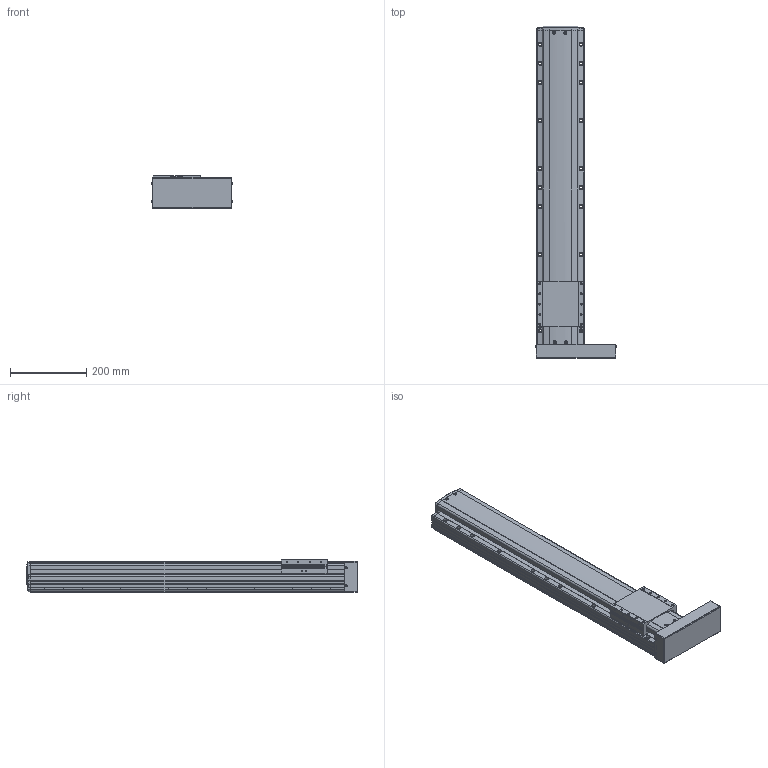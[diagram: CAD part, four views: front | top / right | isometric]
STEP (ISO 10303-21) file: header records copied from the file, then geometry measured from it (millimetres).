
FILE_DESCRIPTION(('STEP AP214'),'1');
FILE_NAME('Z:/Web/3D/PSA125/STP/PSA125-600 (3D)/PSA125ㅁㅁ-600PR.stp','2014-06-23T03:42:25',(' '),(' '),'Spatial InterOp 3D',' ',' ');
FILE_SCHEMA(('automotive_design'));
Length unit declared in the file: millimetre
Products named in the file (23): 스크루 : Round - M4.0 x 10.0; RRCV-PA120; SLIDE; BASE; FRCV-PA120-1(기준 뿔 제거); RR1500; 스크루 : Round - M4.0 x 6.0; 너트 : Square - M10.0 x 220.7419; BTCV - 60A; 스크루 : Round - M3.0 x 6.0
Bounding box: 212.13 x 868.6 x 86 mm (x, y, z)
Volume: 7596419.5 mm3; surface area: 629209.7 mm2
Topology: 23 solids, 23 shells, 1982 faces, 5317 edges, 3378 vertices
Faces by surface type: plane 1058, cylinder 604, cone 220, sphere 44, bspline 31, torus 25
Entity records: 79482 total; most frequent: CARTESIAN_POINT 13380, DIRECTION 10513, ORIENTED_EDGE 10358, EDGE_CURVE 5179, AXIS2_PLACEMENT_3D 3532, LINE 3449, VECTOR 3449, VERTEX_POINT 3378
